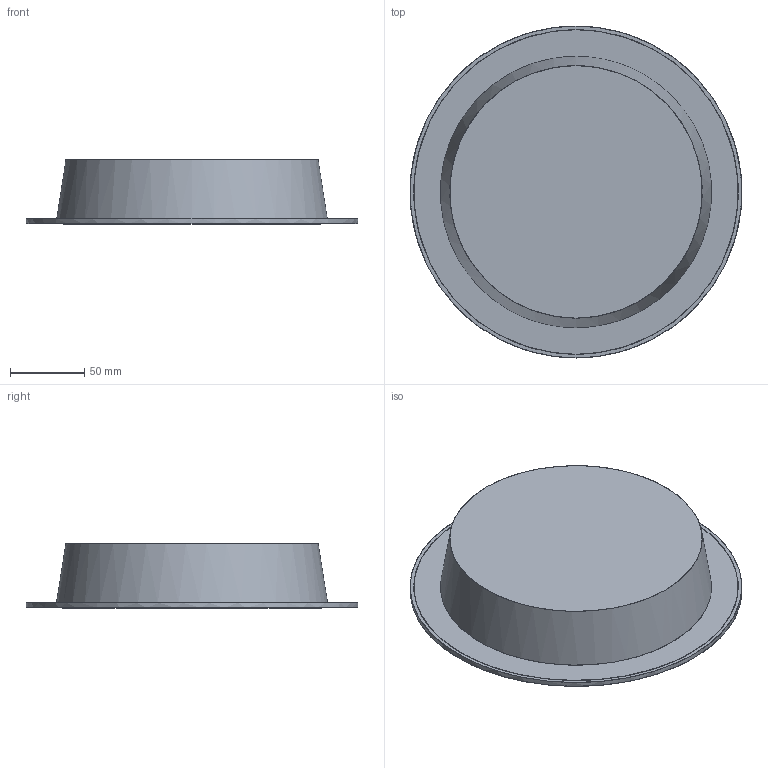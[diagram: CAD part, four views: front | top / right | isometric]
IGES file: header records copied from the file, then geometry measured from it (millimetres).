
Start section: SolidWorks IGES file using NURBS representation for surfaces
Global section: file name: Z:\Modele 3D_WWW\_Commercial\CL-KOS-LED\CL-KOS-LED-16W-8777-8776\CL-KOS-LED-16W-8777-8776.IGS; native system: SolidWorks 2021; preprocessor: SolidWorks 2021; author: gabriela.tworek; date: 220218.132821; units: millimetre
Bounding box: 223.68 x 224 x 43.2 mm (x, y, z)
Surface area: 165667.6 mm2 (no closed solid volume)
Topology: 0 solids, 0 shells, 14 faces, 55 edges, 48 vertices
Faces by surface type: bspline 14
